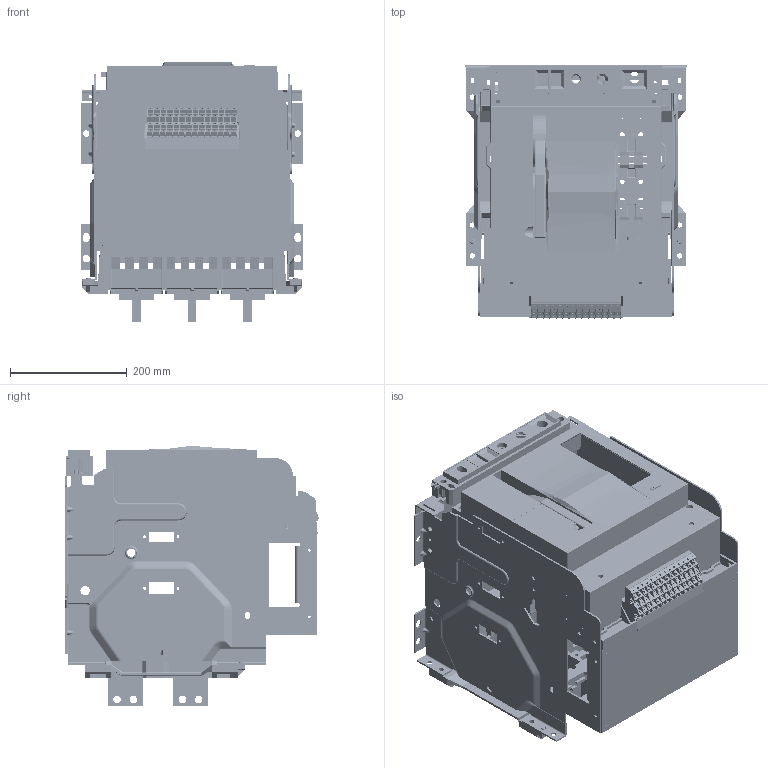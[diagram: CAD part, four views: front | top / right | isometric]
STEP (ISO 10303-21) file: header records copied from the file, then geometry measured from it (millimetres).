
FILE_DESCRIPTION((''),'2;1');
FILE_NAME('NA8G-2500-DO-1600-3P-V_ASM','2020-05-12T16:40:26',('lcc'),(''),'CREO PARAMETRIC BY PTC INC, 2018020','CREO PARAMETRIC BY PTC INC, 2018020','');
FILE_SCHEMA(('CONFIG_CONTROL_DESIGN','SHAPE_APPEARANCE_LAYERS_GROUPS'));
Products named in the file (20): 8-024-490; 8-050-238; 8-050-239; 8ZTD-300-019; 8-300-089; DW45-2000-DIJIA-3P; 8-060-MIANBAN-11; 8-253-290; 8-253-289; 8-253-034; 8-253-309; 8ZTD-300-279; 8ZTD-064-137; 8ZTD-024-634; 8ZTD-860-699; 8ZTD-227-004; 8ZTD-235-048; 8ZTD-860-049-2; 8ZTD-580-217-2; NA8G-2500-DO-1600-3P-V_ASM
Assembly tree (37 placements, depth 2):
  NA8G-2500-DO-1600-3P-V_ASM
    8-024-490
    8-050-238
    8-050-239
    8ZTD-300-019
    8-300-089
    DW45-2000-DIJIA-3P
    8-060-MIANBAN-11
    8-253-290
    8-253-289
    8-253-034
    8-253-309
    8ZTD-300-279
    8ZTD-064-137
    8ZTD-024-634  x14
    8ZTD-860-699
    8ZTD-227-004
    8ZTD-235-048
    8ZTD-860-049-2
    8ZTD-580-217-2  x6
Bounding box: 381 x 434.04 x 446 mm (x, y, z)
Volume: 5402359.3 mm3; surface area: 2867220.7 mm2
Topology: 36 solids, 45 shells, 8563 faces, 23895 edges, 15350 vertices
Faces by surface type: plane 6005, cylinder 1898, bspline 280, torus 177, sphere 105, cone 98
Entity records: 228885 total; most frequent: CARTESIAN_POINT 49375, ORIENTED_EDGE 33744, DIRECTION 31616, EDGE_CURVE 16903, VECTOR 12560, LINE 12560, VERTEX_POINT 10780, AXIS2_PLACEMENT_3D 9528
